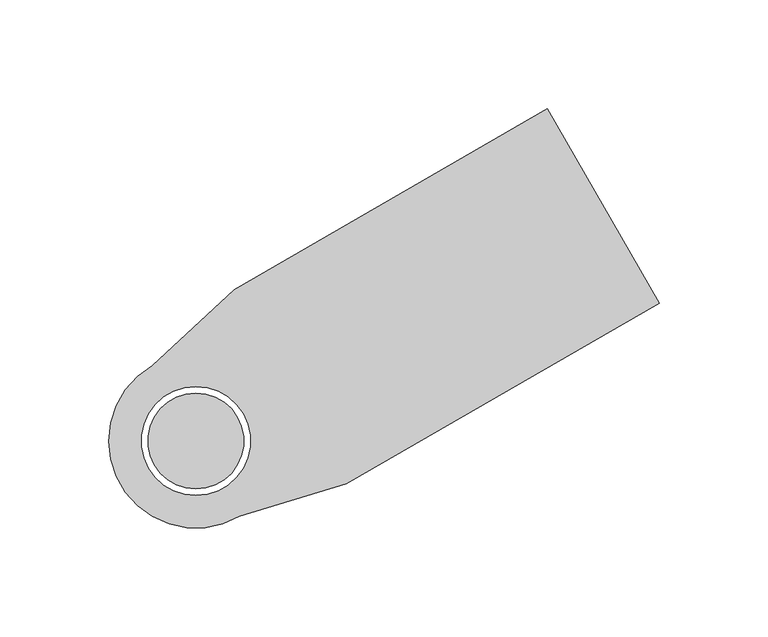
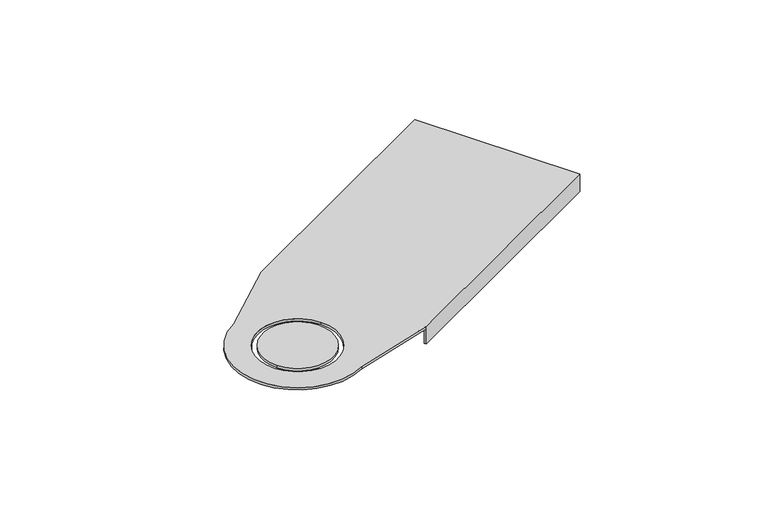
"""IFC4 building model written with IfcOpenShell, lengths in millimetres: cable carrier fitting geometry, BAKS_LDLS_BEND_Articulated connector for LLDS_LGSU : LGSUP_H100."""

from ifc_helpers import new_model, si_unit, frame, origin, place, context, project, spatial, polyline, circle_curve, source, transform, mapped, element, save
from ifc_brep_helpers import plane_surface, cylinder_surface, revolved_surface, advanced_brep


def cable_carrier_fitting_5ea65c1a(model_context):
    return source(origin(), model_context, "Body", "AdvancedBrep", [
        advanced_brep(
        [(161.3114872, 152.6003083, 1.5), (17.5512702, 69.6003083, 1.5), (-20.0, 34.6410162, 1.5), (20.0, -34.6410162, 1.5), (69.0512702, -19.6003083, 1.5), (212.8114872, 63.3996917, 1.5), (-21.6506351, -12.5, 1.5), (21.6506351, 12.5, 1.5), (69.0512702, -19.6003083, 0.0), (20.0, -34.6410162, 0.0), (-20.0, 34.6410162, 0.0), (17.5512702, 69.6003083, 0.0), (18.3012702, 68.3012702, 0.0), (162.0614872, 151.3012702, 0.0), (212.0614872, 64.6987298, 0.0), (68.3012702, -18.3012702, 0.0), (21.6506351, 12.5, 0.0), (-21.6506351, -12.5, 0.0), (161.3114872, 152.6003083, -10.0), (17.5512702, 69.6003083, -10.0), (69.0512702, -19.6003083, -10.0), (212.8114872, 63.3996917, -10.0), (212.0614872, 64.6987298, -10.0), (162.0614872, 151.3012702, -10.0), (68.3012702, -18.3012702, -10.0), (18.3012702, 68.3012702, -10.0)],
        [
            (0, 1),
            (1, 2),
            (2, 3, circle_curve(frame((0.0, 0.0, 1.5), z_axis=(0.0, 0.0, 1.0), x_axis=(0.8660254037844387, 0.49999999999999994, 0.0)), 40.0)),
            (3, 4),
            (4, 5),
            (5, 0),
            (6, 7, circle_curve(frame((0.0, 0.0, 1.5), z_axis=(0.0, 0.0, -1.0), x_axis=(0.8660254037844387, 0.49999999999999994, 0.0)), 25.0)),
            (7, 6, circle_curve(frame((0.0, 0.0, 1.5), z_axis=(0.0, 0.0, -1.0), x_axis=(0.8660254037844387, 0.49999999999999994, 0.0)), 25.0)),
            (8, 9),
            (9, 10, circle_curve(frame((0.0, 0.0, 0.0), z_axis=(0.0, 0.0, -1.0), x_axis=(0.8660254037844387, 0.49999999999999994, 0.0)), 40.0)),
            (10, 11),
            (11, 12),
            (12, 13),
            (13, 14),
            (14, 15),
            (15, 8),
            (16, 17, circle_curve(frame((0.0, 0.0, 0.0), z_axis=(0.0, 0.0, 1.0), x_axis=(0.8660254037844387, 0.49999999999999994, 0.0)), 25.0)),
            (17, 16, circle_curve(frame((0.0, 0.0, 0.0), z_axis=(0.0, 0.0, 1.0), x_axis=(0.8660254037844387, 0.49999999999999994, 0.0)), 25.0)),
            (0, 18),
            (18, 19),
            (19, 11),
            (11, 1),
            (4, 8),
            (8, 20),
            (20, 21),
            (21, 5),
            (21, 22),
            (22, 14),
            (13, 23),
            (23, 18),
            (6, 17),
            (16, 7),
            (10, 2),
            (9, 3),
            (20, 24),
            (24, 22),
            (24, 15),
            (23, 25),
            (25, 19),
            (25, 12),
        ],
        [
            plane_surface(frame((17.5512702, 69.6003083, 1.5), z_axis=(0.0, 0.0, 1.0), x_axis=(-0.8660254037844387, -0.49999999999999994, 0.0))),
            plane_surface(frame((17.5512702, 69.6003083, 0.0), z_axis=(0.0, 0.0, -1.0), x_axis=(0.8660254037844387, 0.49999999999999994, 0.0))),
            plane_surface(frame((161.3114872, 152.6003083, 1.5), z_axis=(-0.49999999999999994, 0.8660254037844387, 0.0), x_axis=(0.0, 0.0, -1.0))),
            plane_surface(frame((69.0512702, -19.6003083, 1.5), z_axis=(0.49999999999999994, -0.8660254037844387, 0.0), x_axis=(0.0, 0.0, -1.0))),
            plane_surface(frame((212.8114872, 63.3996917, 1.5), z_axis=(0.8660254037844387, 0.49999999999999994, 0.0), x_axis=(0.0, 0.0, -1.0))),
            revolved_surface(polyline([(21.65063509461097, 12.499999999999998, 1.5), (21.65063509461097, 12.499999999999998, 0.0)]), (0.0, 0.0, 0.0), (0.0, 0.0, 1.0)),
            plane_surface(frame((17.5512702, 69.6003083, 1.5), z_axis=(-0.6813951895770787, 0.7319157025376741, 0.0), x_axis=(0.0, 0.0, -1.0))),
            cylinder_surface(frame((0.0, 0.0, 0.0), z_axis=(0.0, 0.0, 1.0), x_axis=(0.8660254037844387, 0.49999999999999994, 0.0)), 40.0),
            plane_surface(frame((20.0, -34.6410162, 1.5), z_axis=(0.2931599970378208, -0.9560633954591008, 0.0), x_axis=(0.0, 0.0, -1.0))),
            plane_surface(frame((68.3012702, -18.3012702, -10.0), z_axis=(0.0, 0.0, -1.0), x_axis=(0.8660254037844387, 0.5, 0.0))),
            plane_surface(frame((212.0614872, 64.6987298, 0.0), z_axis=(-0.5, 0.8660254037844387, 0.0), x_axis=(0.0, 0.0, -1.0))),
            plane_surface(frame((68.3012702, -18.3012702, 0.0), z_axis=(-0.8660254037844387, -0.49999999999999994, 0.0), x_axis=(0.0, 0.0, -1.0))),
            plane_surface(frame((17.5512702, 69.6003083, -10.0), z_axis=(0.0, 0.0, -1.0), x_axis=(0.8660254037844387, 0.49999999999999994, 0.0))),
            plane_surface(frame((17.5512702, 69.6003083, 0.0), z_axis=(-0.8660254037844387, -0.49999999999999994, 0.0), x_axis=(0.0, 0.0, -1.0))),
            plane_surface(frame((18.3012702, 68.3012702, 0.0), z_axis=(0.5, -0.8660254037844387, 0.0), x_axis=(0.0, 0.0, -1.0))),
        ],
        [
            (0, [[1, 2, 3, 4, 5, 6], [7, 8]]),
            (1, [[9, 10, 11, 12, 13, 14, 15, 16], [17, 18]]),
            (2, [[-1, 19, 20, 21, 22]]),
            (3, [[-5, 23, 24, 25, 26]]),
            (4, [[-19, -6, -26, 27, 28, -14, 29, 30]]),
            (5, [[31, -17, 32, -7]]),
            (5, [[-31, -8, -32, -18]]),
            (6, [[-2, -22, -11, 33]]),
            (7, [[-3, -33, -10, 34]]),
            (8, [[-4, -34, -9, -23]]),
            (9, [[-27, -25, 35, 36]]),
            (10, [[-36, 37, -15, -28]]),
            (11, [[-35, -24, -16, -37]]),
            (12, [[-30, 38, 39, -20]]),
            (13, [[-39, 40, -12, -21]]),
            (14, [[-38, -29, -13, -40]]),
        ],
    ),
        advanced_brep(
        [(-19.0525589, -11.0, 1.5), (19.0525589, 11.0, 1.5), (19.0525589, 11.0, 0.0), (-19.0525589, -11.0, 0.0)],
        [
            (0, 1, circle_curve(frame((0.0, 0.0, 1.5), z_axis=(0.0, 0.0, 1.0), x_axis=(0.8660254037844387, 0.49999999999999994, 0.0)), 22.0)),
            (1, 0, circle_curve(frame((0.0, 0.0, 1.5), z_axis=(0.0, 0.0, 1.0), x_axis=(0.8660254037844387, 0.49999999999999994, 0.0)), 22.0)),
            (2, 3, circle_curve(frame((0.0, 0.0, 0.0), z_axis=(0.0, 0.0, -1.0), x_axis=(0.8660254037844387, 0.49999999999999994, 0.0)), 22.0)),
            (3, 2, circle_curve(frame((0.0, 0.0, 0.0), z_axis=(0.0, 0.0, -1.0), x_axis=(0.8660254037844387, 0.49999999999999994, 0.0)), 22.0)),
            (0, 3),
            (2, 1),
        ],
        [
            plane_surface(frame((17.5512702, 69.6003083, 1.5), z_axis=(0.0, 0.0, 1.0), x_axis=(-0.8660254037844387, -0.49999999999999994, 0.0))),
            plane_surface(frame((17.5512702, 69.6003083, 0.0), z_axis=(0.0, 0.0, -1.0), x_axis=(0.8660254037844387, 0.49999999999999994, 0.0))),
            cylinder_surface(frame((0.0, 0.0, 0.0), z_axis=(0.0, 0.0, -1.0), x_axis=(0.8660254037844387, 0.49999999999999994, 0.0)), 22.0),
        ],
        [
            (0, [[1, 2]]),
            (1, [[3, 4]]),
            (2, [[5, -3, 6, -1]]),
            (2, [[-5, -2, -6, -4]]),
        ],
    ),
    ])


if __name__ == "__main__":
    model = new_model("IFC4")
    model_context = context("Model", 3, world=origin())
    ifc_project = project(units=[si_unit("LENGTHUNIT", "METRE", prefix="MILLI")], contexts=[model_context])
    site = spatial("IfcSite", under=ifc_project)
    building = spatial("IfcBuilding", under=site)
    placement = place(None, origin())
    cable_carrier_fitting_shape = cable_carrier_fitting_5ea65c1a(model_context)
    element("IfcCableCarrierFitting", 1, ObjectType="BAKS_LDLS_BEND_Articulated connector for LLDS_LGSU : LGSUP_H100", at=placement, inside=building, context=model_context, shape_type="MappedRepresentation", body=[
        mapped(cable_carrier_fitting_shape, transform((0.0, 0.0, 0.0), x_axis=(1.0, 0.0, 0.0), y_axis=(0.0, 1.0, 0.0), z_axis=(0.0, 0.0, 1.0))),
    ])
    save(model, "model.ifc")
